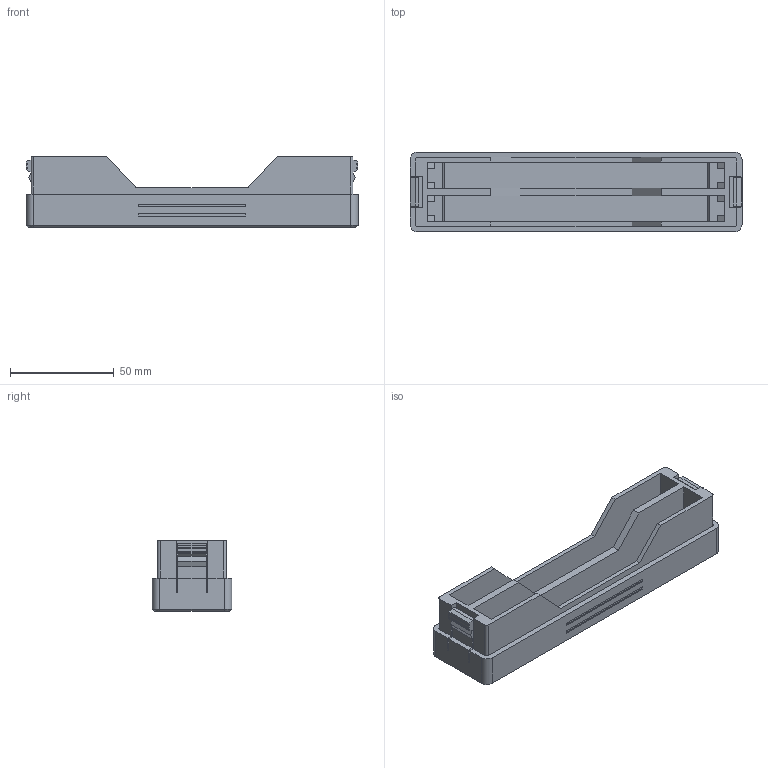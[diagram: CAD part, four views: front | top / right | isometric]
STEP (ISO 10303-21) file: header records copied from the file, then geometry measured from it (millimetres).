
FILE_DESCRIPTION(('Open CASCADE Model'),'2;1');
FILE_NAME('mailer_base','2026-11-03T16:11:05',('Author'),('Open CASCADE' ),'Open CASCADE STEP processor 8.0','build123d','Unknown');
FILE_SCHEMA(('AUTOMOTIVE_DESIGN { 1 0 10303 214 1 1 1 1 }'));
Products named in the file (1): mailer_base
Bounding box: 160 x 38.4 x 34 mm (x, y, z)
Volume: 70577.9 mm3; surface area: 40885.9 mm2
Topology: 1 solids, 1 shells, 3361 faces, 9922 edges, 6612 vertices
Faces by surface type: plane 3349, cylinder 8, cone 4
Entity records: 238486 total; most frequent: CARTESIAN_POINT 39978, DIRECTION 36292, LINE 29516, VECTOR 29516, ORIENTED_EDGE 19844, PCURVE 19844, DEFINITIONAL_REPRESENTATION 19844, EDGE_CURVE 9922
